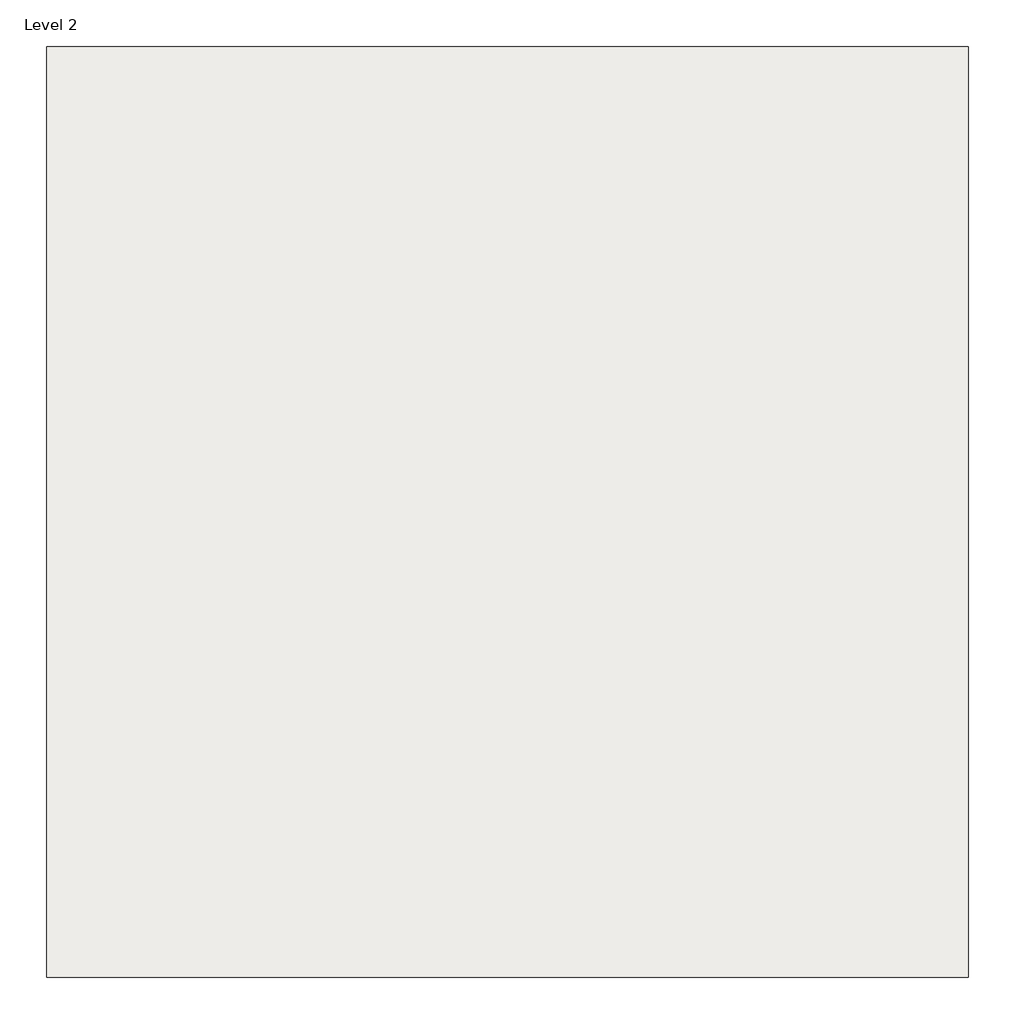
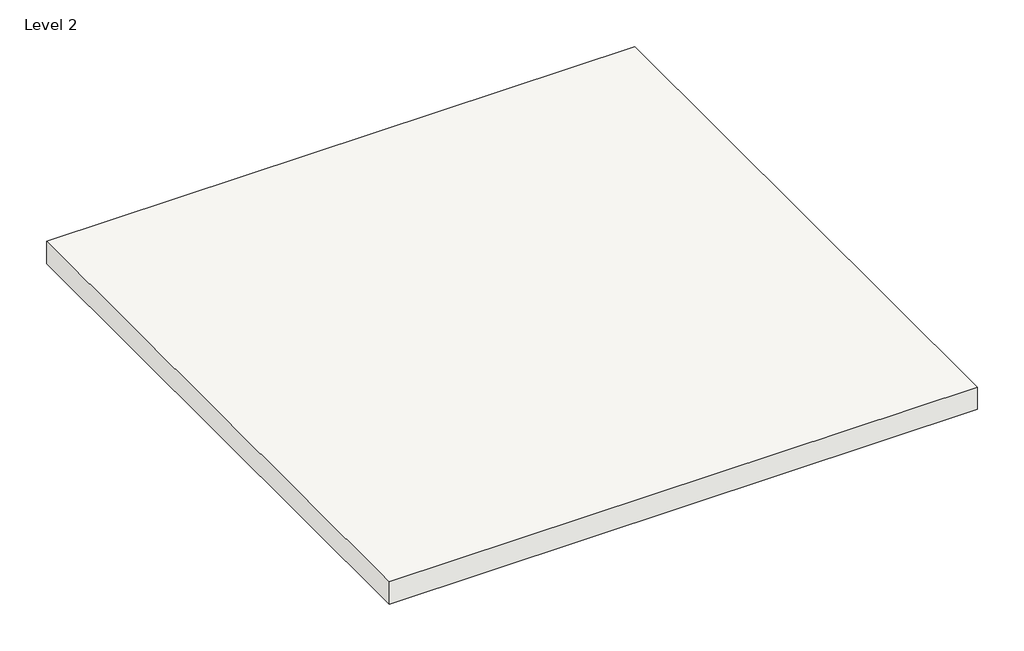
# One storey: 1 roof.
"""IFC4 building model written with IfcOpenShell, lengths in millimetres."""

from ifc_helpers import new_model, si_unit, frame, origin, place, context, project, spatial, polyline, outline, extrude, element, save

model = new_model("IFC4")

# Units and contexts
model_context = context("Model", 3, world=origin())
ifc_project = project(units=[si_unit("LENGTHUNIT", "METRE", prefix="MILLI")], contexts=[model_context])

# Site, building, storey
site = spatial("IfcSite", under=ifc_project)
building = spatial("IfcBuilding", under=site)
storey = spatial("IfcBuildingStorey", under=building, Name="Level 2", Elevation=4000.0)

# Roof
placement = place(None, origin())
element("IfcRoof", 1, ObjectType="Generic - 400mm", at=placement, inside=storey, context=model_context, shape_type="SweptSolid", body=[
    extrude(outline(polyline([(-17362.9123896, 4244.5675672), (-7362.9123896, 4244.5675672), (-7362.9123896, -5855.4324328), (-17362.9123896, -5855.4324328), (-17362.9123896, 4244.5675672)])), frame((0.0, 0.0, 4000.0), z_axis=(0.0, 0.0, 1.0), x_axis=(1.0, 0.0, 0.0)), (0.0, 0.0, 1.0), 400.0),
])

save(model, "model.ifc")
